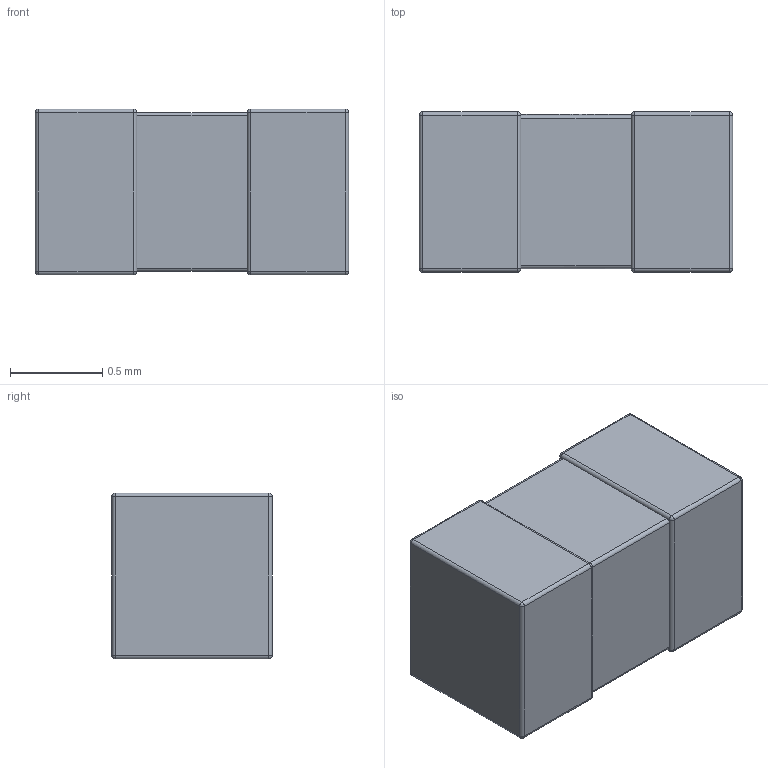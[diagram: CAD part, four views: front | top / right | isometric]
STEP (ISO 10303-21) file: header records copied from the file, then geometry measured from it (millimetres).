
FILE_DESCRIPTION (( 'STEP AP214' ), '1' );
FILE_NAME ('CCS_CCSTDNOS_0603_L1.7W0.9T0.87B0.55.STEP', '2020-03-16T23:11:36', ( '' ), ( '' ), 'SwSTEP 2.0', 'SolidWorks 2014', '' );
FILE_SCHEMA (( 'AUTOMOTIVE_DESIGN' ));
Length unit declared in the file: millimetre
Products named in the file (1): CCS_CCSTDNOS_0603_L1.7W0.9T0.87B0.55
Bounding box: 1.7 x 0.87 x 0.9 mm (x, y, z)
Volume: 1.3 mm3; surface area: 7.6 mm2
Topology: 4 solids, 4 shells, 121 faces, 303 edges, 174 vertices
Faces by surface type: plane 71, cylinder 34, sphere 16
Entity records: 4270 total; most frequent: CARTESIAN_POINT 751, ORIENTED_EDGE 574, DIRECTION 555, EDGE_CURVE 287, VECTOR 215, LINE 215, VERTEX_POINT 174, AXIS2_PLACEMENT_3D 170
